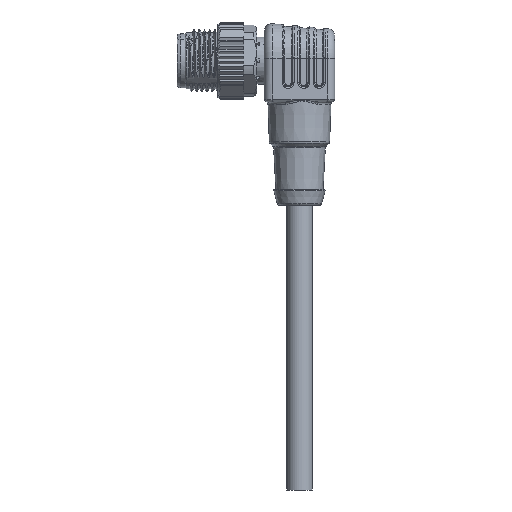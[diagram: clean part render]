
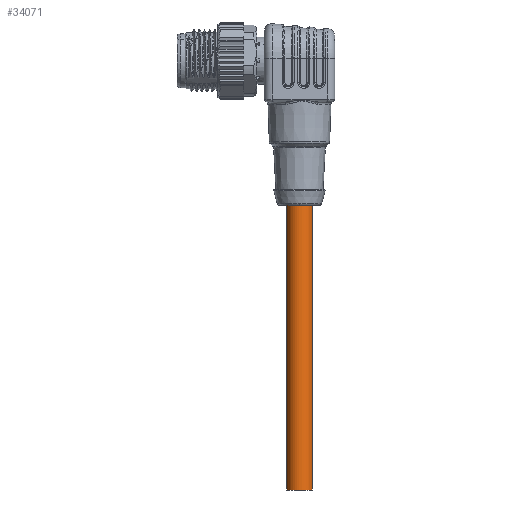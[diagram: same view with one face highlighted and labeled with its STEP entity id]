
A CAD part, front view. The second image highlights one B-rep face of the part: STEP entity #34071.
In plain terms, the highlighted cylindrical face has radius 2.5 mm (diameter 5 mm), a partial arc.
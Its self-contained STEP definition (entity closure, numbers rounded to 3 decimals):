
#1055 = EDGE_CURVE ( 'NONE', #55393, #53520, #6171, .T. ) ;
#1838 = ORIENTED_EDGE ( 'NONE', *, *, #1055, .T. ) ;
#3653 = DIRECTION ( 'NONE',  ( 1., 0., 0. ) ) ;
#3969 = DIRECTION ( 'NONE',  ( -1., 0., 0. ) ) ;
#4818 = CARTESIAN_POINT ( 'NONE',  ( 10.8, 0., -27.95 ) ) ;
#6171 = CIRCLE ( 'NONE', #24244, 2.5 ) ;
#6904 = EDGE_LOOP ( 'NONE', ( #40257, #1838, #9974, #21938 ) ) ;
#7330 = DIRECTION ( 'NONE',  ( 0., 0., 1. ) ) ;
#7632 = EDGE_CURVE ( 'NONE', #45068, #55393, #21533, .T. ) ;
#7894 = CARTESIAN_POINT ( 'NONE',  ( 8.3, 0., -27.95 ) ) ;
#9974 = ORIENTED_EDGE ( 'NONE', *, *, #10831, .F. ) ;
#10548 = AXIS2_PLACEMENT_3D ( 'NONE', #50604, #12368, #3653 ) ;
#10831 = EDGE_CURVE ( 'NONE', #40256, #53520, #20069, .T. ) ;
#12368 = DIRECTION ( 'NONE',  ( 0., 0., -1. ) ) ;
#16947 = DIRECTION ( 'NONE',  ( 0., 0., -1. ) ) ;
#17083 = CARTESIAN_POINT ( 'NONE',  ( 5.8, 0., -27.95 ) ) ;
#20069 = LINE ( 'NONE', #41834, #36089 ) ;
#21533 = LINE ( 'NONE', #47030, #51332 ) ;
#21938 = ORIENTED_EDGE ( 'NONE', *, *, #35806, .T. ) ;
#24244 = AXIS2_PLACEMENT_3D ( 'NONE', #7894, #16947, #3969 ) ;
#28339 = CARTESIAN_POINT ( 'NONE',  ( 10.8, 0., -82.95 ) ) ;
#34071 = ADVANCED_FACE ( 'NONE', ( #37295 ), #42658, .T. ) ;
#35806 = EDGE_CURVE ( 'NONE', #40256, #45068, #38600, .T. ) ;
#36089 = VECTOR ( 'NONE', #7330, 1000. ) ;
#37295 = FACE_OUTER_BOUND ( 'NONE', #6904, .T. ) ;
#38329 = DIRECTION ( 'NONE',  ( 1., 0., 0. ) ) ;
#38600 = CIRCLE ( 'NONE', #54012, 2.5 ) ;
#40256 = VERTEX_POINT ( 'NONE', #46068 ) ;
#40257 = ORIENTED_EDGE ( 'NONE', *, *, #7632, .T. ) ;
#41834 = CARTESIAN_POINT ( 'NONE',  ( 5.8, 0., -32.95 ) ) ;
#42585 = DIRECTION ( 'NONE',  ( 0., 0., 1. ) ) ;
#42658 = CYLINDRICAL_SURFACE ( 'NONE', #10548, 2.5 ) ;
#45068 = VERTEX_POINT ( 'NONE', #28339 ) ;
#46068 = CARTESIAN_POINT ( 'NONE',  ( 5.8, 0., -82.95 ) ) ;
#46736 = DIRECTION ( 'NONE',  ( 0., 0., 1. ) ) ;
#47030 = CARTESIAN_POINT ( 'NONE',  ( 10.8, 0., -32.95 ) ) ;
#47394 = CARTESIAN_POINT ( 'NONE',  ( 8.3, 0., -82.95 ) ) ;
#50604 = CARTESIAN_POINT ( 'NONE',  ( 8.3, 0., -32.95 ) ) ;
#51332 = VECTOR ( 'NONE', #46736, 1000. ) ;
#53520 = VERTEX_POINT ( 'NONE', #17083 ) ;
#54012 = AXIS2_PLACEMENT_3D ( 'NONE', #47394, #42585, #38329 ) ;
#55393 = VERTEX_POINT ( 'NONE', #4818 ) ;
